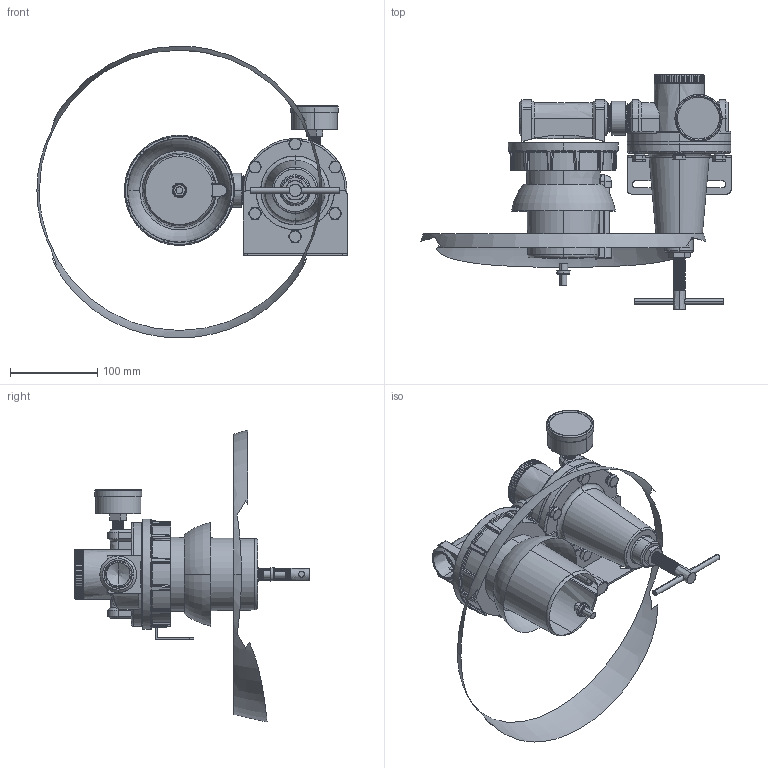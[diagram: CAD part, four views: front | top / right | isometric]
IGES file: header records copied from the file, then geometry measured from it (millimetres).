
Start section: SolidWorks IGES file using analytic representation for surfaces
Global section: file name: C:\Users\Toshiba\Desktop\U628#W-08#YB#.IGS; native system: SolidWorks 2014; preprocessor: SolidWorks 2014; author: Toshiba; date: 160216.144659; units: millimetre
Bounding box: 355.23 x 269 x 334.27 mm (x, y, z)
Surface area: 302227.8 mm2 (no closed solid volume)
Topology: 0 solids, 0 shells, 1220 faces, 14922 edges, 14896 vertices
Faces by surface type: revolution 627, bspline 593
